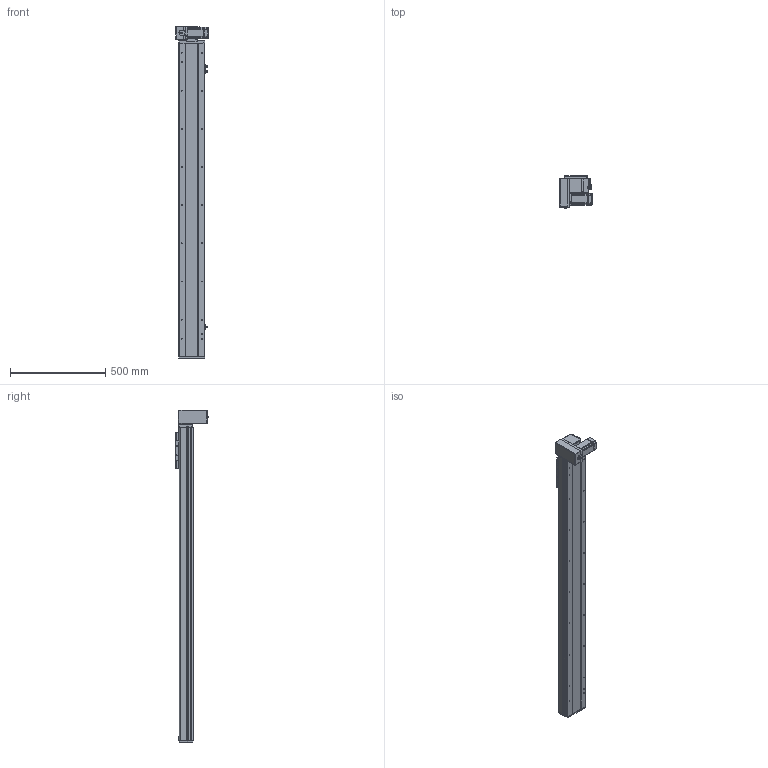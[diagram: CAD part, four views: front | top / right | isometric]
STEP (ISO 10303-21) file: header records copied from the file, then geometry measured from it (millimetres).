
FILE_DESCRIPTION (( 'STEP AP214' ), '1' );
FILE_NAME ('TPE14-L40-1350-LD-T40-C4.STEP', '2023-04-12T11:16:55', ( '' ), ( '' ), 'SwSTEP 2.0', 'SolidWorks 2020', '' );
FILE_SCHEMA (( 'AUTOMOTIVE_DESIGN' ));
Length unit declared in the file: millimetre
Products named in the file (10): hexagon head bolts-full thread gb_GB_FASTENER_BOLT_STBAB A M5X16-N; 葩璃 侂狟400W^TPE14-L40-LD-T40-C4; 葩璃 TPE14-L-001 菁釱MZ-135-01^TPE14-L40-LD-T40-C4; 葩璃 詩湍75^TPE14-L40-LD-T40-C4; 葩璃 TPT14-L-009 萇儂啣^TPE14-L40-LD-T40-C4_400W; 葩璃 TPE14-L-002 耜裔ZTMZ-135-04^TPE14-L40-LD-T40-C4; TPE14-L40-1350-LD-T40-C4; 葩璃 pm-t65-672^TPE14-L40-LD-T40-C4; 葩璃 TPE14 賑雄殤^TPE14-L40-LD-T40-C4; 葩璃 TPE14-L-007 々湍釱MZ-169x88^TPE14-L40-LD-T40-C4_YCB14
Assembly tree (12 placements, depth 2):
  TPE14-L40-1350-LD-T40-C4
    葩璃 TPE14-L-001 菁釱MZ-135-01^TPE14-L40-LD-T40-C4
    葩璃 TPE14-L-002 耜裔ZTMZ-135-04^TPE14-L40-LD-T40-C4  x2
    葩璃 詩湍75^TPE14-L40-LD-T40-C4
    葩璃 TPE14-L-007 々湍釱MZ-169x88^TPE14-L40-LD-T40-C4_YCB14
    葩璃 TPT14-L-009 萇儂啣^TPE14-L40-LD-T40-C4_400W
    葩璃 TPE14 賑雄殤^TPE14-L40-LD-T40-C4
    葩璃 pm-t65-672^TPE14-L40-LD-T40-C4  x3
    葩璃 侂狟400W^TPE14-L40-LD-T40-C4
    hexagon head bolts-full thread gb_GB_FASTENER_BOLT_STBAB A M5X16-N
Bounding box: 172.5 x 171.45 x 1740.5 mm (x, y, z)
Volume: 8853079.2 mm3; surface area: 1717162.9 mm2
Topology: 23 solids, 23 shells, 1428 faces, 3707 edges, 2350 vertices
Faces by surface type: plane 823, cylinder 429, cone 142, bspline 34
Entity records: 38099 total; most frequent: CARTESIAN_POINT 7422, DIRECTION 6088, ORIENTED_EDGE 5890, EDGE_CURVE 2945, AXIS2_PLACEMENT_3D 2070, LINE 1948, VECTOR 1948, VERTEX_POINT 1898
